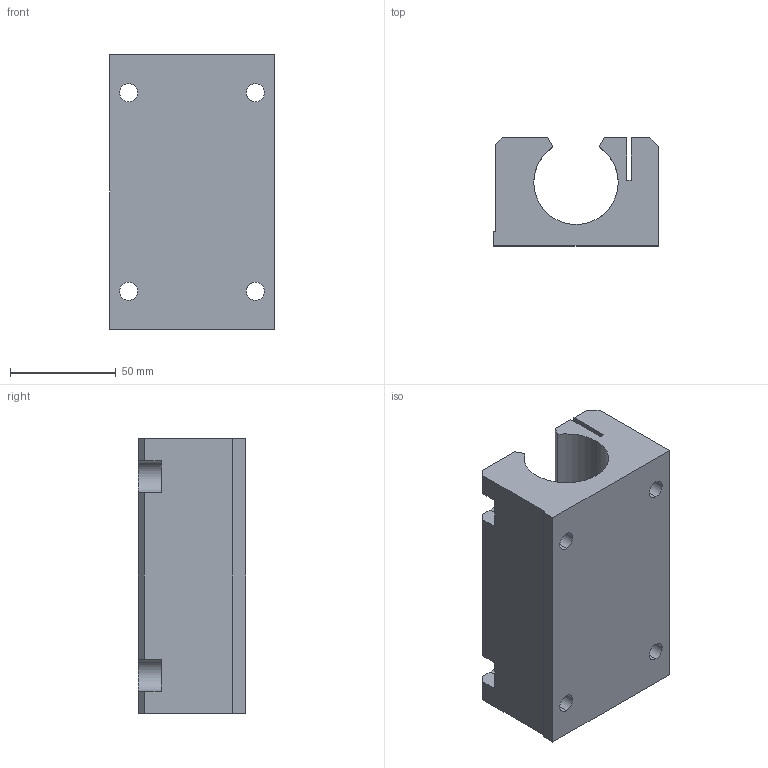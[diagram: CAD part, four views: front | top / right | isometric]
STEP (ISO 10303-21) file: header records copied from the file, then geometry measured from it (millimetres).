
FILE_DESCRIPTION (( 'STEP AP214' ), '1' );
FILE_NAME ('KTGOE34-25.step', '2020-03-04T13:29:15', ( '' ), ( '' ), 'SwSTEP 2.0', 'SolidWorks 2019', '' );
FILE_SCHEMA (( 'AUTOMOTIVE_DESIGN' ));
Length unit declared in the file: millimetre
Products named in the file (1): KTGOE34-25
Bounding box: 78 x 51 x 130 mm (x, y, z)
Volume: 313050.8 mm3; surface area: 60134.1 mm2
Topology: 1 solids, 1 shells, 82 faces, 254 edges, 168 vertices
Faces by surface type: plane 43, cylinder 37, cone 2
Entity records: 3290 total; most frequent: CARTESIAN_POINT 671, ORIENTED_EDGE 508, DIRECTION 490, EDGE_CURVE 254, VERTEX_POINT 168, LINE 164, VECTOR 164, AXIS2_PLACEMENT_3D 163
